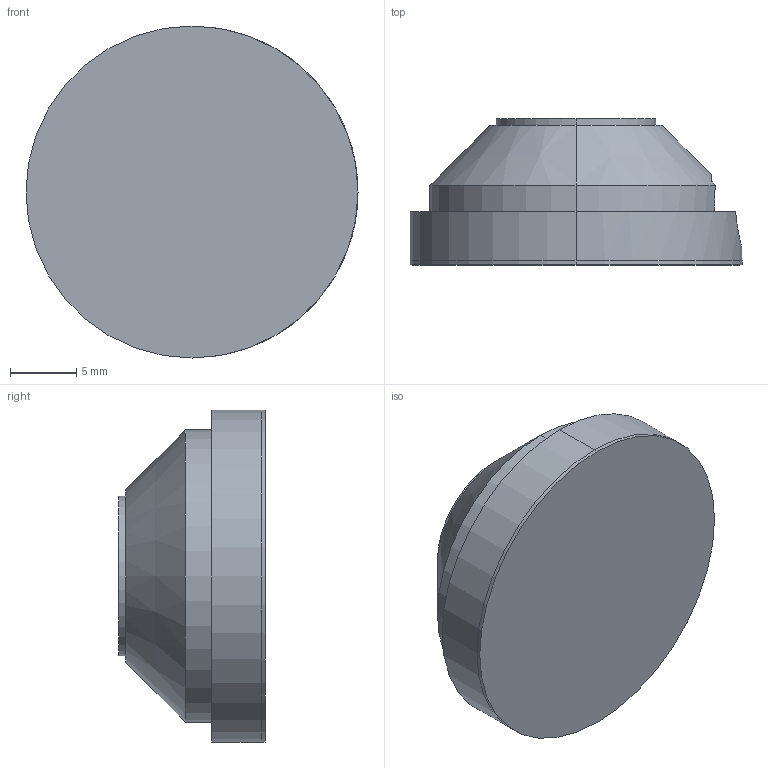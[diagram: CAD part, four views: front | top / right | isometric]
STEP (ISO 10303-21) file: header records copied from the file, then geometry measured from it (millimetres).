
FILE_DESCRIPTION (( 'STEP AP203' ), '1' );
FILE_NAME ('EZ-0053-025 Standardlager Bestell-Nr. 0004735.STEP', '2021-09-16T15:22:36', ( '' ), ( '' ), 'SwSTEP 2.0', 'SolidWorks 2021', '' );
FILE_SCHEMA (( 'CONFIG_CONTROL_DESIGN' ));
Length unit declared in the file: millimetre
Products named in the file (1): EZ-0053-025 Standardlager  Bestell-Nr. 0004735
Bounding box: 25 x 11 x 25 mm (x, y, z)
Volume: 3690.4 mm3; surface area: 2922.3 mm2
Topology: 4 solids, 4 shells, 77 faces, 176 edges, 111 vertices
Faces by surface type: cylinder 34, plane 23, cone 10, torus 8, sphere 2
Entity records: 2320 total; most frequent: CARTESIAN_POINT 443, DIRECTION 416, ORIENTED_EDGE 348, AXIS2_PLACEMENT_3D 176, EDGE_CURVE 174, VERTEX_POINT 111, CIRCLE 98, EDGE_LOOP 87
